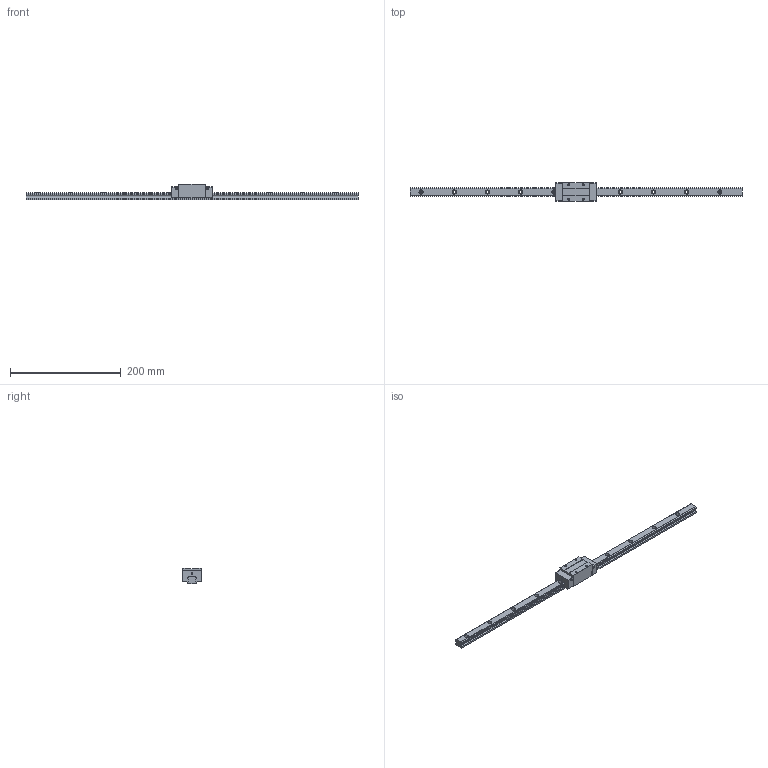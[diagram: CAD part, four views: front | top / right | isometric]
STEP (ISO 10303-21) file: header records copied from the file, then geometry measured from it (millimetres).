
FILE_DESCRIPTION (( 'STEP AP203' ), '1' );
FILE_NAME ('TRH15VL-ZN.STEP', '2024-05-23T03:15:00', ( '' ), ( '' ), 'SwSTEP 2.0', 'SolidWorks 2022', '' );
FILE_SCHEMA (( 'CONFIG_CONTROL_DESIGN' ));
Length unit declared in the file: millimetre
Products named in the file (1): TRH15VL-ZN
Bounding box: 600 x 34 x 28 mm (x, y, z)
Volume: 147912.2 mm3; surface area: 48870.9 mm2
Topology: 2 solids, 2 shells, 200 faces, 520 edges, 336 vertices
Faces by surface type: cylinder 96, plane 88, cone 16
Entity records: 6223 total; most frequent: DIRECTION 1114, CARTESIAN_POINT 1049, ORIENTED_EDGE 1024, EDGE_CURVE 512, AXIS2_PLACEMENT_3D 401, VERTEX_POINT 336, LINE 312, VECTOR 312
